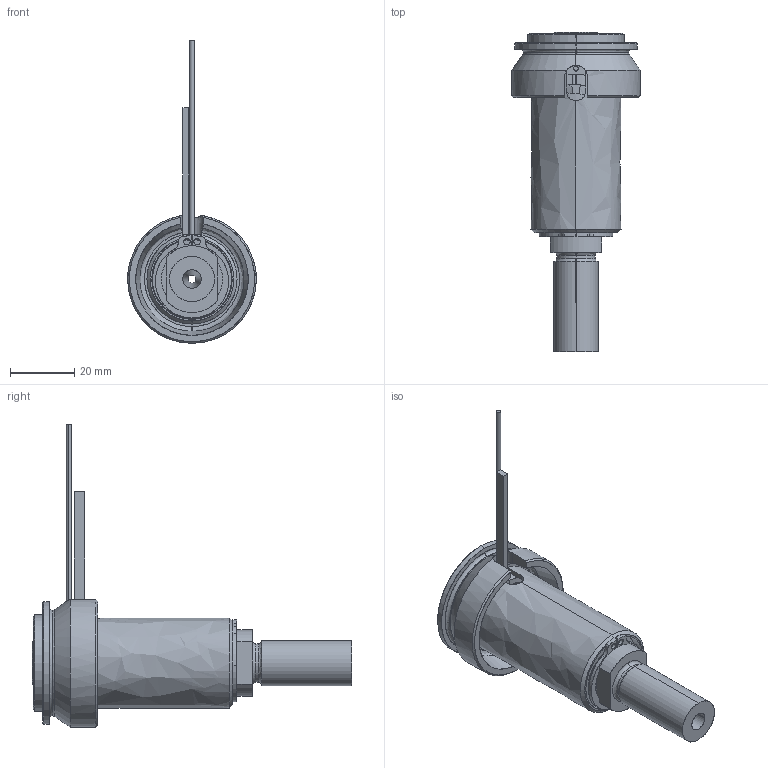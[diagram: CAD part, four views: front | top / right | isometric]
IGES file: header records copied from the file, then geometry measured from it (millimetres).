
Start section: SolidWorks IGES file using analytic representation for surfaces
Global section: file name: C:\Documents and Settings\ws-20\Desktop\TEMPORANEA\UGBE4001-M-A-P-3 [Ød-2.5 P-25 ØC-09].IGS; native system: SolidWorks 2012; preprocessor: SolidWorks 2012; author: ws-20; date: 120306.123224; units: millimetre
Bounding box: 40 x 99.25 x 94.15 mm (x, y, z)
Surface area: 25473.8 mm2 (no closed solid volume)
Topology: 0 solids, 0 shells, 106 faces, 1779 edges, 1779 vertices
Faces by surface type: revolution 60, bspline 46
